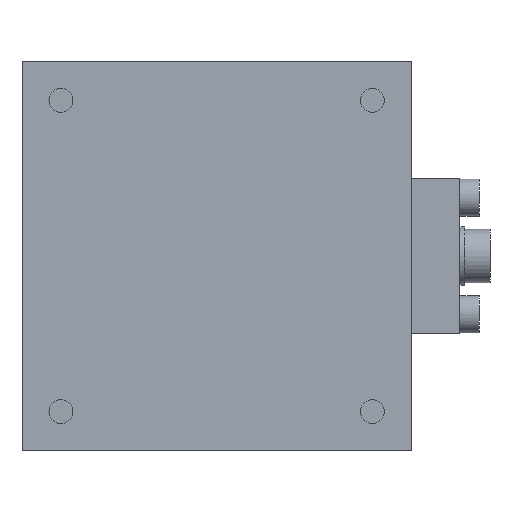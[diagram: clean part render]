
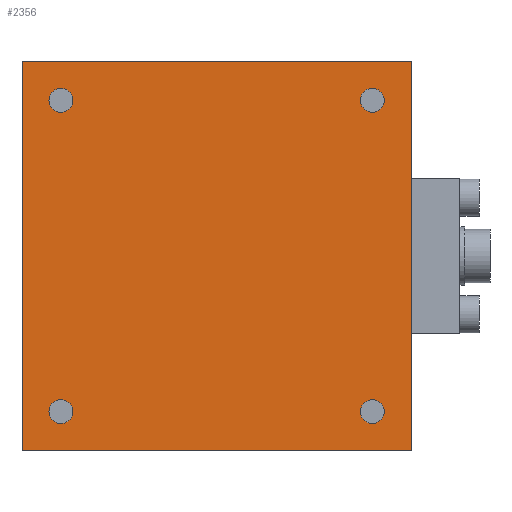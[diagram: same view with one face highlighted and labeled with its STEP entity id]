
A CAD part, top view. The second image highlights one B-rep face of the part: STEP entity #2356.
In plain terms, the highlighted planar face has unit normal (0, 0, 1).
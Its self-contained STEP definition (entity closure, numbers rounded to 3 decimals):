
#2221=CARTESIAN_POINT('Axis2P3D Location',(16.,16.,4.)) ;
#2225=CARTESIAN_POINT('Vertex',(17.23,16.,4.)) ;
#2227=CARTESIAN_POINT('Vertex',(14.771,16.,4.)) ;
#2247=CARTESIAN_POINT('Axis2P3D Location',(16.,16.,4.)) ;
#2259=CARTESIAN_POINT('Axis2P3D Location',(0.,-20.,4.)) ;
#2264=CARTESIAN_POINT('Line Origine',(0.,20.,4.)) ;
#2268=CARTESIAN_POINT('Vertex',(-20.,20.,4.)) ;
#2270=CARTESIAN_POINT('Vertex',(20.,20.,4.)) ;
#2273=CARTESIAN_POINT('Line Origine',(-20.,0.,4.)) ;
#2277=CARTESIAN_POINT('Vertex',(-20.,-20.,4.)) ;
#2280=CARTESIAN_POINT('Line Origine',(0.,-20.,4.)) ;
#2284=CARTESIAN_POINT('Vertex',(20.,-20.,4.)) ;
#2287=CARTESIAN_POINT('Line Origine',(20.,0.,4.)) ;
#2302=CARTESIAN_POINT('Axis2P3D Location',(-16.,16.,4.)) ;
#2306=CARTESIAN_POINT('Vertex',(-17.23,16.,4.)) ;
#2308=CARTESIAN_POINT('Vertex',(-14.771,16.,4.)) ;
#2311=CARTESIAN_POINT('Axis2P3D Location',(-16.,16.,4.)) ;
#2320=CARTESIAN_POINT('Axis2P3D Location',(16.,-16.,4.)) ;
#2324=CARTESIAN_POINT('Vertex',(14.771,-16.,4.)) ;
#2326=CARTESIAN_POINT('Vertex',(17.23,-16.,4.)) ;
#2329=CARTESIAN_POINT('Axis2P3D Location',(16.,-16.,4.)) ;
#2338=CARTESIAN_POINT('Axis2P3D Location',(-16.,-16.,4.)) ;
#2342=CARTESIAN_POINT('Vertex',(-17.23,-16.,4.)) ;
#2344=CARTESIAN_POINT('Vertex',(-14.771,-16.,4.)) ;
#2347=CARTESIAN_POINT('Axis2P3D Location',(-16.,-16.,4.)) ;
#2266=VECTOR('Line Direction',#2265,1.) ;
#2275=VECTOR('Line Direction',#2274,1.) ;
#2282=VECTOR('Line Direction',#2281,1.) ;
#2289=VECTOR('Line Direction',#2288,1.) ;
#2222=DIRECTION('Axis2P3D Direction',(0.,0.,-1.)) ;
#2248=DIRECTION('Axis2P3D Direction',(0.,0.,-1.)) ;
#2260=DIRECTION('Axis2P3D Direction',(0.,0.,-1.)) ;
#2261=DIRECTION('Axis2P3D XDirection',(0.,1.,0.)) ;
#2265=DIRECTION('Vector Direction',(1.,0.,0.)) ;
#2274=DIRECTION('Vector Direction',(0.,1.,0.)) ;
#2281=DIRECTION('Vector Direction',(1.,0.,0.)) ;
#2288=DIRECTION('Vector Direction',(0.,1.,0.)) ;
#2303=DIRECTION('Axis2P3D Direction',(0.,0.,-1.)) ;
#2312=DIRECTION('Axis2P3D Direction',(0.,0.,-1.)) ;
#2321=DIRECTION('Axis2P3D Direction',(0.,0.,-1.)) ;
#2330=DIRECTION('Axis2P3D Direction',(0.,0.,-1.)) ;
#2339=DIRECTION('Axis2P3D Direction',(0.,0.,-1.)) ;
#2348=DIRECTION('Axis2P3D Direction',(0.,0.,-1.)) ;
#2223=AXIS2_PLACEMENT_3D('Circle Axis2P3D',#2221,#2222,$) ;
#2249=AXIS2_PLACEMENT_3D('Circle Axis2P3D',#2247,#2248,$) ;
#2262=AXIS2_PLACEMENT_3D('Plane Axis2P3D',#2259,#2260,#2261) ;
#2304=AXIS2_PLACEMENT_3D('Circle Axis2P3D',#2302,#2303,$) ;
#2313=AXIS2_PLACEMENT_3D('Circle Axis2P3D',#2311,#2312,$) ;
#2322=AXIS2_PLACEMENT_3D('Circle Axis2P3D',#2320,#2321,$) ;
#2331=AXIS2_PLACEMENT_3D('Circle Axis2P3D',#2329,#2330,$) ;
#2340=AXIS2_PLACEMENT_3D('Circle Axis2P3D',#2338,#2339,$) ;
#2349=AXIS2_PLACEMENT_3D('Circle Axis2P3D',#2347,#2348,$) ;
#2267=LINE('Line',#2264,#2266) ;
#2276=LINE('Line',#2273,#2275) ;
#2283=LINE('Line',#2280,#2282) ;
#2290=LINE('Line',#2287,#2289) ;
#2224=CIRCLE('generated circle',#2223,1.23) ;
#2250=CIRCLE('generated circle',#2249,1.23) ;
#2305=CIRCLE('generated circle',#2304,1.23) ;
#2314=CIRCLE('generated circle',#2313,1.23) ;
#2323=CIRCLE('generated circle',#2322,1.23) ;
#2332=CIRCLE('generated circle',#2331,1.23) ;
#2341=CIRCLE('generated circle',#2340,1.23) ;
#2350=CIRCLE('generated circle',#2349,1.23) ;
#2263=PLANE('',#2262) ;
#2301=FACE_BOUND('',#2298,.T.) ;
#2319=FACE_BOUND('',#2316,.T.) ;
#2337=FACE_BOUND('',#2334,.T.) ;
#2355=FACE_BOUND('',#2352,.T.) ;
#2229=EDGE_CURVE('',#2226,#2228,#2224,.T.) ;
#2251=EDGE_CURVE('',#2228,#2226,#2250,.T.) ;
#2272=EDGE_CURVE('',#2269,#2271,#2267,.T.) ;
#2279=EDGE_CURVE('',#2269,#2278,#2276,.F.) ;
#2286=EDGE_CURVE('',#2278,#2285,#2283,.T.) ;
#2291=EDGE_CURVE('',#2271,#2285,#2290,.F.) ;
#2310=EDGE_CURVE('',#2307,#2309,#2305,.T.) ;
#2315=EDGE_CURVE('',#2309,#2307,#2314,.T.) ;
#2328=EDGE_CURVE('',#2325,#2327,#2323,.T.) ;
#2333=EDGE_CURVE('',#2327,#2325,#2332,.T.) ;
#2346=EDGE_CURVE('',#2343,#2345,#2341,.T.) ;
#2351=EDGE_CURVE('',#2345,#2343,#2350,.T.) ;
#2292=EDGE_LOOP('',(#2293,#2294,#2295,#2296)) ;
#2298=EDGE_LOOP('',(#2299,#2300)) ;
#2316=EDGE_LOOP('',(#2317,#2318)) ;
#2334=EDGE_LOOP('',(#2335,#2336)) ;
#2352=EDGE_LOOP('',(#2353,#2354)) ;
#2293=ORIENTED_EDGE('',*,*,#2272,.F.) ;
#2294=ORIENTED_EDGE('',*,*,#2279,.T.) ;
#2295=ORIENTED_EDGE('',*,*,#2286,.T.) ;
#2296=ORIENTED_EDGE('',*,*,#2291,.F.) ;
#2299=ORIENTED_EDGE('',*,*,#2251,.T.) ;
#2300=ORIENTED_EDGE('',*,*,#2229,.T.) ;
#2317=ORIENTED_EDGE('',*,*,#2310,.T.) ;
#2318=ORIENTED_EDGE('',*,*,#2315,.T.) ;
#2335=ORIENTED_EDGE('',*,*,#2328,.T.) ;
#2336=ORIENTED_EDGE('',*,*,#2333,.T.) ;
#2353=ORIENTED_EDGE('',*,*,#2346,.T.) ;
#2354=ORIENTED_EDGE('',*,*,#2351,.T.) ;
#2226=VERTEX_POINT('',#2225) ;
#2228=VERTEX_POINT('',#2227) ;
#2269=VERTEX_POINT('',#2268) ;
#2271=VERTEX_POINT('',#2270) ;
#2278=VERTEX_POINT('',#2277) ;
#2285=VERTEX_POINT('',#2284) ;
#2307=VERTEX_POINT('',#2306) ;
#2309=VERTEX_POINT('',#2308) ;
#2325=VERTEX_POINT('',#2324) ;
#2327=VERTEX_POINT('',#2326) ;
#2343=VERTEX_POINT('',#2342) ;
#2345=VERTEX_POINT('',#2344) ;
#2356=ADVANCED_FACE('\X2\FF8AFF9FFF70FF82\X0\ \X2\FF8EFF9EFF83FF9EFF68FF70\X0\',(#2297,#2301,#2319,#2337,#2355),#2263,.F.) ;
#2297=FACE_OUTER_BOUND('',#2292,.T.) ;
